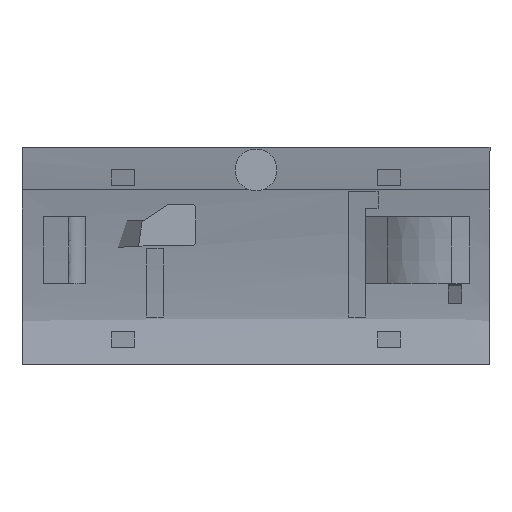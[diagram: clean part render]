
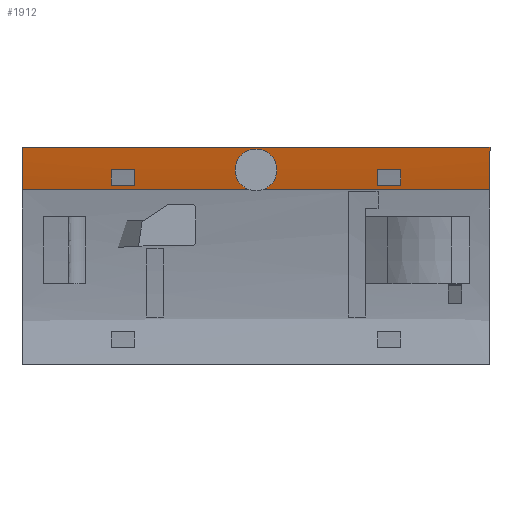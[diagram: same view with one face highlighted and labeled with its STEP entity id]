
A CAD part, left-side view. The second image highlights one B-rep face of the part: STEP entity #1912.
In plain terms, the highlighted cylindrical face has radius 99.9 mm (diameter 199.8 mm), a partial arc.
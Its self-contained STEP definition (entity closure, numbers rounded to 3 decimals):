
#596 = CARTESIAN_POINT ( 'NONE',  ( -3.978, 0., 21.4 ) ) ;
#602 = LINE ( 'NONE', #604, #4929 ) ;
#603 = LINE ( 'NONE', #596, #4932 ) ;
#604 = CARTESIAN_POINT ( 'NONE',  ( -5.08, 0., 26. ) ) ;
#605 = DIRECTION ( 'NONE',  ( 0., 1., 0. ) ) ;
#608 = LINE ( 'NONE', #609, #4935 ) ;
#609 = CARTESIAN_POINT ( 'NONE',  ( -4.485, 0., 23.4 ) ) ;
#610 = CARTESIAN_POINT ( 'NONE',  ( 92.597, 42.55, 46.96 ) ) ;
#611 = DIRECTION ( 'NONE',  ( 0., 1., 0. ) ) ;
#612 = DIRECTION ( 'NONE',  ( 0., 0., 1. ) ) ;
#613 = DIRECTION ( 'NONE',  ( 0., -1., 0. ) ) ;
#614 = LINE ( 'NONE', #615, #4939 ) ;
#615 = CARTESIAN_POINT ( 'NONE',  ( -4.485, 0., 23.4 ) ) ;
#616 = CARTESIAN_POINT ( 'NONE',  ( 92.597, 45.35, 46.96 ) ) ;
#617 = DIRECTION ( 'NONE',  ( 0., -1., 0. ) ) ;
#618 = DIRECTION ( 'NONE',  ( 0., 0., -1. ) ) ;
#619 = DIRECTION ( 'NONE',  ( 0., 1., 0. ) ) ;
#620 = LINE ( 'NONE', #621, #4937 ) ;
#621 = CARTESIAN_POINT ( 'NONE',  ( -3.978, 0., 21.4 ) ) ;
#622 = DIRECTION ( 'NONE',  ( 0., -1., 0. ) ) ;
#623 = CARTESIAN_POINT ( 'NONE',  ( 92.597, 13.45, 46.96 ) ) ;
#624 = DIRECTION ( 'NONE',  ( 0., -1., 0. ) ) ;
#625 = DIRECTION ( 'NONE',  ( 0., 0., -1. ) ) ;
#626 = DIRECTION ( 'NONE',  ( 0., 1., 0. ) ) ;
#627 = LINE ( 'NONE', #628, #4944 ) ;
#628 = CARTESIAN_POINT ( 'NONE',  ( -3.851, 0., 20.923 ) ) ;
#629 = CARTESIAN_POINT ( 'NONE',  ( 92.597, 10.65, 46.96 ) ) ;
#630 = DIRECTION ( 'NONE',  ( 0., 1., 0. ) ) ;
#631 = DIRECTION ( 'NONE',  ( 0., 0., 1. ) ) ;
#633 = CARTESIAN_POINT ( 'NONE',  ( 92.597, 56., 46.96 ) ) ;
#634 = DIRECTION ( 'NONE',  ( 0., -1., 0. ) ) ;
#635 = DIRECTION ( 'NONE',  ( 0., 0., 1. ) ) ;
#637 = DIRECTION ( 'NONE',  ( 0., 1., 0. ) ) ;
#639 = CARTESIAN_POINT ( 'NONE',  ( 92.597, 0., 46.96 ) ) ;
#640 = DIRECTION ( 'NONE',  ( 0., -1., 0. ) ) ;
#641 = DIRECTION ( 'NONE',  ( 0., 0., 1. ) ) ;
#1912 = ADVANCED_FACE ( 'NONE', ( #3872, #3865, #3875 ), #3874, .T. ) ;
#2146 = VERTEX_POINT ( 'NONE', #5001 ) ;
#2152 = VERTEX_POINT ( 'NONE', #5007 ) ;
#2156 = VERTEX_POINT ( 'NONE', #5011 ) ;
#2158 = VERTEX_POINT ( 'NONE', #5013 ) ;
#2159 = VERTEX_POINT ( 'NONE', #5014 ) ;
#2160 = VERTEX_POINT ( 'NONE', #5015 ) ;
#2161 = VERTEX_POINT ( 'NONE', #5016 ) ;
#2162 = VERTEX_POINT ( 'NONE', #5017 ) ;
#2163 = VERTEX_POINT ( 'NONE', #5018 ) ;
#2164 = VERTEX_POINT ( 'NONE', #5019 ) ;
#2165 = VERTEX_POINT ( 'NONE', #5020 ) ;
#2166 = VERTEX_POINT ( 'NONE', #5021 ) ;
#2234 = ORIENTED_EDGE ( 'NONE', *, *, #3369, .F. ) ;
#2235 = ORIENTED_EDGE ( 'NONE', *, *, #3370, .F. ) ;
#2236 = ORIENTED_EDGE ( 'NONE', *, *, #3371, .F. ) ;
#2237 = ORIENTED_EDGE ( 'NONE', *, *, #3372, .F. ) ;
#2238 = ORIENTED_EDGE ( 'NONE', *, *, #3373, .F. ) ;
#2239 = ORIENTED_EDGE ( 'NONE', *, *, #3374, .F. ) ;
#2240 = ORIENTED_EDGE ( 'NONE', *, *, #3375, .F. ) ;
#2241 = ORIENTED_EDGE ( 'NONE', *, *, #3376, .F. ) ;
#2242 = ORIENTED_EDGE ( 'NONE', *, *, #3377, .T. ) ;
#2243 = ORIENTED_EDGE ( 'NONE', *, *, #3378, .F. ) ;
#2244 = ORIENTED_EDGE ( 'NONE', *, *, #3379, .F. ) ;
#2245 = ORIENTED_EDGE ( 'NONE', *, *, #3367, .T. ) ;
#2782 = EDGE_LOOP ( 'NONE', ( #2238, #2239, #2240, #2241 ) ) ;
#2783 = EDGE_LOOP ( 'NONE', ( #2242, #2243, #2244, #2245 ) ) ;
#2917 = AXIS2_PLACEMENT_3D ( 'NONE', #3876, #3873, #3868 ) ;
#2962 = EDGE_LOOP ( 'NONE', ( #2234, #2235, #2236, #2237 ) ) ;
#3367 = EDGE_CURVE ( 'NONE', #2152, #2159, #602, .T. ) ;
#3369 = EDGE_CURVE ( 'NONE', #2146, #2156, #4931, .T. ) ;
#3370 = EDGE_CURVE ( 'NONE', #2161, #2146, #603, .T. ) ;
#3371 = EDGE_CURVE ( 'NONE', #2162, #2161, #4934, .T. ) ;
#3372 = EDGE_CURVE ( 'NONE', #2156, #2162, #608, .T. ) ;
#3373 = EDGE_CURVE ( 'NONE', #2158, #2165, #620, .T. ) ;
#3374 = EDGE_CURVE ( 'NONE', #2160, #2158, #4938, .T. ) ;
#3375 = EDGE_CURVE ( 'NONE', #2166, #2160, #614, .T. ) ;
#3376 = EDGE_CURVE ( 'NONE', #2165, #2166, #4941, .T. ) ;
#3377 = EDGE_CURVE ( 'NONE', #2159, #2163, #4942, .T. ) ;
#3378 = EDGE_CURVE ( 'NONE', #2164, #2163, #627, .T. ) ;
#3379 = EDGE_CURVE ( 'NONE', #2152, #2164, #4930, .T. ) ;
#3865 = FACE_BOUND ( 'NONE', #2782, .T. ) ;
#3868 = DIRECTION ( 'NONE',  ( 0., 0., -1. ) ) ;
#3872 = FACE_BOUND ( 'NONE', #2962, .T. ) ;
#3873 = DIRECTION ( 'NONE',  ( 0., 1., 0. ) ) ;
#3874 = CYLINDRICAL_SURFACE ( 'NONE', #2917, 99.9 ) ;
#3875 = FACE_OUTER_BOUND ( 'NONE', #2783, .T. ) ;
#3876 = CARTESIAN_POINT ( 'NONE',  ( 92.597, 0., 46.96 ) ) ;
#4929 = VECTOR ( 'NONE', #605, 1000. ) ;
#4930 = CIRCLE ( 'NONE', #4948, 99.9 ) ;
#4931 = CIRCLE ( 'NONE', #4933, 99.9 ) ;
#4932 = VECTOR ( 'NONE', #613, 1000. ) ;
#4933 = AXIS2_PLACEMENT_3D ( 'NONE', #610, #611, #612 ) ;
#4934 = CIRCLE ( 'NONE', #4936, 99.9 ) ;
#4935 = VECTOR ( 'NONE', #619, 1000. ) ;
#4936 = AXIS2_PLACEMENT_3D ( 'NONE', #616, #617, #618 ) ;
#4937 = VECTOR ( 'NONE', #622, 1000. ) ;
#4938 = CIRCLE ( 'NONE', #4940, 99.9 ) ;
#4939 = VECTOR ( 'NONE', #626, 1000. ) ;
#4940 = AXIS2_PLACEMENT_3D ( 'NONE', #623, #624, #625 ) ;
#4941 = CIRCLE ( 'NONE', #4943, 99.9 ) ;
#4942 = CIRCLE ( 'NONE', #4945, 99.9 ) ;
#4943 = AXIS2_PLACEMENT_3D ( 'NONE', #629, #630, #631 ) ;
#4944 = VECTOR ( 'NONE', #637, 1000. ) ;
#4945 = AXIS2_PLACEMENT_3D ( 'NONE', #633, #634, #635 ) ;
#4948 = AXIS2_PLACEMENT_3D ( 'NONE', #639, #640, #641 ) ;
#5001 = CARTESIAN_POINT ( 'NONE',  ( -3.978, 42.55, 21.4 ) ) ;
#5007 = CARTESIAN_POINT ( 'NONE',  ( -5.08, 0., 26. ) ) ;
#5011 = CARTESIAN_POINT ( 'NONE',  ( -4.485, 42.55, 23.4 ) ) ;
#5013 = CARTESIAN_POINT ( 'NONE',  ( -3.978, 13.45, 21.4 ) ) ;
#5014 = CARTESIAN_POINT ( 'NONE',  ( -5.08, 56., 26. ) ) ;
#5015 = CARTESIAN_POINT ( 'NONE',  ( -4.485, 13.45, 23.4 ) ) ;
#5016 = CARTESIAN_POINT ( 'NONE',  ( -3.978, 45.35, 21.4 ) ) ;
#5017 = CARTESIAN_POINT ( 'NONE',  ( -4.485, 45.35, 23.4 ) ) ;
#5018 = CARTESIAN_POINT ( 'NONE',  ( -3.851, 56., 20.923 ) ) ;
#5019 = CARTESIAN_POINT ( 'NONE',  ( -3.851, 0., 20.923 ) ) ;
#5020 = CARTESIAN_POINT ( 'NONE',  ( -3.978, 10.65, 21.4 ) ) ;
#5021 = CARTESIAN_POINT ( 'NONE',  ( -4.485, 10.65, 23.4 ) ) ;
